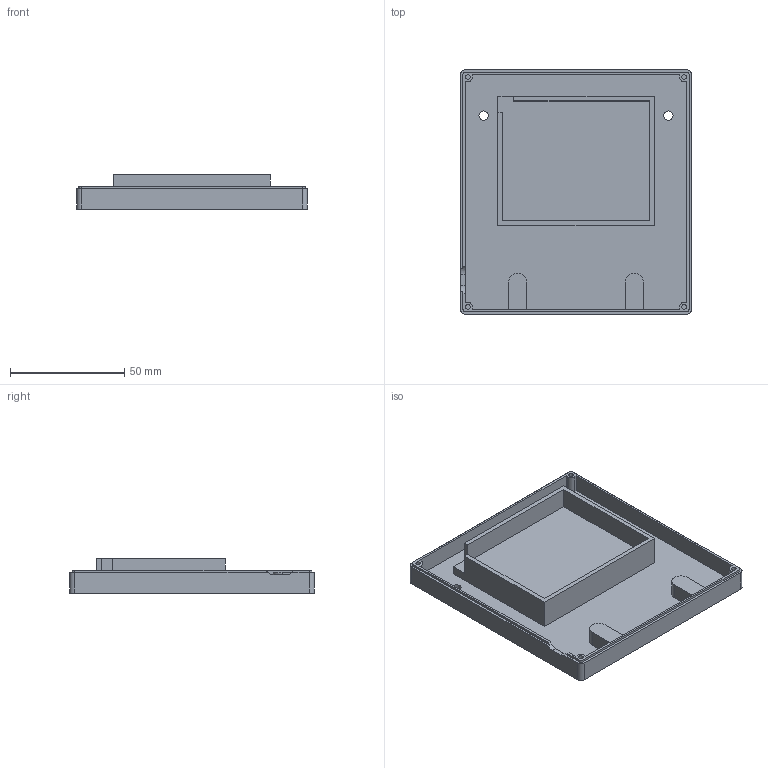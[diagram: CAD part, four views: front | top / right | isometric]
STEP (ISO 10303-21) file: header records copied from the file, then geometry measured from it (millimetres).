
FILE_DESCRIPTION(/* description */ (''),/* implementation_level */ '2;1');
FILE_NAME(/* name */ 'BackPanel.step',/* time_stamp */ '2026-02-25T18:53:19+03:00',/* author */ (''),/* organization */ (''),/* preprocessor_version */ 'ST-DEVELOPER v20.1',/* originating_system */ 'Autodesk Translation Framework v14.24.0.0',/* authorisation */ '');
FILE_SCHEMA (('AUTOMOTIVE_DESIGN { 1 0 10303 214 3 1 1 }'));
Length unit declared in the file: millimetre
Products named in the file (1): BackPanel
Bounding box: 101 x 107 x 15 mm (x, y, z)
Volume: 48419.6 mm3; surface area: 34675.4 mm2
Topology: 1 solids, 1 shells, 70 faces, 189 edges, 126 vertices
Faces by surface type: plane 48, cylinder 22
Full cylindrical faces by diameter (mm): 2 x4, 4 x2
Entity records: 2240 total; most frequent: CARTESIAN_POINT 386, ORIENTED_EDGE 378, DIRECTION 377, EDGE_CURVE 189, LINE 143, VECTOR 143, VERTEX_POINT 126, AXIS2_PLACEMENT_3D 117
